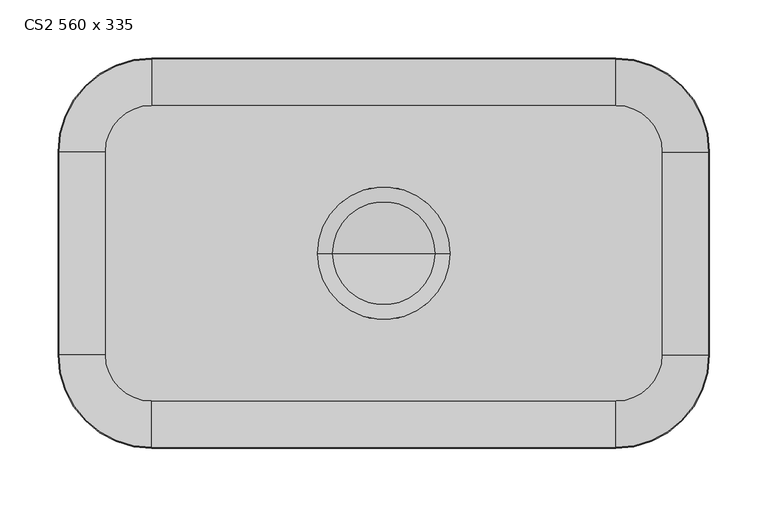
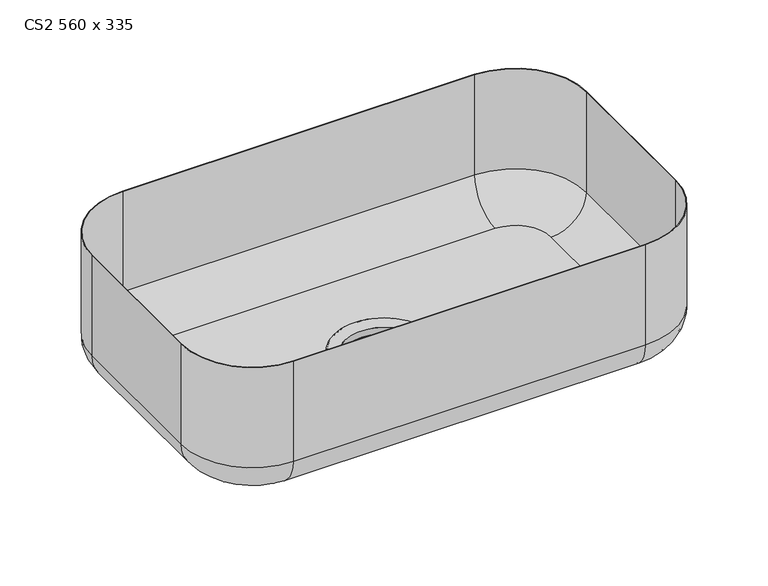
"""IFC4 building model written with IfcOpenShell, lengths in millimetres: flow terminal geometry, Cuba Cozinha de Embutir Simples Retangular : CS2 560 x 335."""

from ifc_helpers import new_model, si_unit, point, frame, origin, place, context, project, spatial, polyline, circle_curve, ellipse_curve, trimmed, source, transform, mapped, element, save
from ifc_brep_helpers import plane_surface, cylinder_surface, revolved_surface, advanced_brep


def cs2_560_x_335_cd160908(model_context):
    return source(origin(), model_context, "Body", "AdvancedBrep", [
        advanced_brep(
        [(-57.15, 0.0, -210.0), (57.15, 0.0, -210.0), (0.0, 0.0, -210.0), (-57.15, 0.0, -190.0), (57.15, 0.0, -190.0), (-44.45, 0.0, -192.4686299), (44.45, 0.0, -192.4686299), (-44.45, 0.0, -200.234315), (44.45, 0.0, -200.234315), (0.0, 0.0, -208.8745197)],
        [
            (0, 1, circle_curve(frame((0.0, 0.0, -210.0), z_axis=(0.0, 0.0, -1.0), x_axis=(1.0, 0.0, 0.0)), 57.15)),
            (1, 2),
            (2, 0),
            (1, 0, circle_curve(frame((0.0, 0.0, -210.0), z_axis=(0.0, 0.0, -1.0), x_axis=(1.0, 0.0, 0.0)), 57.15)),
            (3, 4, circle_curve(frame((0.0, 0.0, -190.0), z_axis=(0.0, 0.0, -1.0), x_axis=(1.0, 0.0, 0.0)), 57.15)),
            (4, 1),
            (0, 3),
            (4, 3, circle_curve(frame((0.0, 0.0, -190.0), z_axis=(0.0, 0.0, -1.0), x_axis=(1.0, 0.0, 0.0)), 57.15)),
            (5, 6, circle_curve(frame((0.0, 0.0, -192.4686299), z_axis=(0.0, 0.0, -1.0), x_axis=(1.0, 0.0, 0.0)), 44.45)),
            (6, 4),
            (3, 5),
            (6, 5, circle_curve(frame((0.0, 0.0, -192.4686299), z_axis=(0.0, 0.0, -1.0), x_axis=(1.0, 0.0, 0.0)), 44.45)),
            (7, 8, circle_curve(frame((0.0, 0.0, -200.234315), z_axis=(0.0, 0.0, -1.0), x_axis=(1.0, 0.0, 0.0)), 44.45)),
            (8, 6),
            (5, 7),
            (8, 7, circle_curve(frame((0.0, 0.0, -200.234315), z_axis=(0.0, 0.0, -1.0), x_axis=(1.0, 0.0, 0.0)), 44.45)),
            (9, 8),
            (7, 9),
        ],
        [
            plane_surface(frame((0.0, 0.0, -210.0), z_axis=(0.0, 0.0, -1.0), x_axis=(1.0, 0.0, 0.0))),
            cylinder_surface(frame((0.0, 0.0, -190.0), z_axis=(0.0, 0.0, 1.0), x_axis=(1.0, 0.0, 0.0)), 57.15),
            revolved_surface(polyline([(57.15, 0.0, -190.0), (44.45, 0.0, -192.4686299)]), (0.0, 0.0, -190.0), (0.0, 0.0, 1.0)),
            revolved_surface(polyline([(44.45, 0.0, -192.4686299), (44.45, 0.0, -200.234315)]), (0.0, 0.0, -190.0), (0.0, 0.0, 1.0)),
            revolved_surface(polyline([(44.45, 0.0, -200.234315), (0.0, 0.0, -208.8745197)]), (0.0, 0.0, -190.0), (0.0, 0.0, 1.0)),
        ],
        [
            (0, [[1, 2, 3]]),
            (0, [[4, -3, -2]]),
            (1, [[5, 6, -1, 7]]),
            (1, [[8, -7, -4, -6]]),
            (2, [[9, 10, -5, 11]]),
            (2, [[12, -11, -8, -10]]),
            (3, [[13, 14, -9, 15]]),
            (3, [[16, -15, -12, -14]]),
            (4, [[17, -13, 18]]),
            (4, [[-18, -16, -17]]),
        ],
    ),
        advanced_brep(
        [(240.0, 87.5, -190.0), (200.0, 127.5, -190.0), (-200.0, 127.5, -190.0), (-240.0, 87.5, -190.0), (-240.0, -87.5, -190.0), (-200.0, -127.5, -190.0), (200.0, -127.5, -190.0), (240.0, -87.5, -190.0), (35.6324422, 44.6816692, -190.0), (51.4903708, 24.7964557, -190.0), (57.15, 0.0, -190.0), (51.4903708, -24.7964557, -190.0), (35.6324422, -44.6816692, -190.0), (12.7170714, -55.7171302, -190.0), (-12.7170714, -55.7171302, -190.0), (-35.6324422, -44.6816692, -190.0), (-51.4903708, -24.7964557, -190.0), (-57.15, 0.0, -190.0), (-51.4903708, 24.7964557, -190.0), (-35.6324422, 44.6816692, -190.0), (-12.7170714, 55.7171302, -190.0), (12.7170714, 55.7171302, -190.0), (200.0, 127.5, -191.0), (240.0, 87.5, -191.0), (240.0, -87.5, -191.0), (200.0, -127.5, -191.0), (-200.0, -127.5, -191.0), (-240.0, -87.5, -191.0), (-240.0, 87.5, -191.0), (-200.0, 127.5, -191.0), (51.4903708, 24.7964557, -191.0), (35.6324422, 44.6816692, -191.0), (12.7170714, 55.7171302, -191.0), (-12.7170714, 55.7171302, -191.0), (-35.6324422, 44.6816692, -191.0), (-51.4903708, 24.7964557, -191.0), (-57.15, 0.0, -191.0), (-51.4903708, -24.7964557, -191.0), (-35.6324422, -44.6816692, -191.0), (-12.7170714, -55.7171302, -191.0), (12.7170714, -55.7171302, -191.0), (35.6324422, -44.6816692, -191.0), (51.4903708, -24.7964557, -191.0), (57.15, 0.0, -191.0), (280.0, 87.5, -30.0), (200.0, 167.5, -30.0), (200.0, 167.5, -150.0), (280.0, 87.5, -150.0), (281.0, 87.5, -150.0), (200.0, 168.5, -150.0), (200.0, 168.5, -30.0), (281.0, 87.5, -30.0), (280.0, -87.5, -150.0), (280.0, -87.5, -30.0), (281.0, -87.5, -30.0), (281.0, -87.5, -150.0), (200.0, -167.5, -150.0), (200.0, -167.5, -30.0), (200.0, -168.5, -30.0), (200.0, -168.5, -150.0), (-200.0, -167.5, -150.0), (-200.0, -167.5, -30.0), (-200.0, -168.5, -30.0), (-200.0, -168.5, -150.0), (-280.0, -87.5, -150.0), (-280.0, -87.5, -30.0), (-281.0, -87.5, -30.0), (-281.0, -87.5, -150.0), (-280.0, 87.5, -150.0), (-280.0, 87.5, -30.0), (-281.0, 87.5, -30.0), (-281.0, 87.5, -150.0), (-200.0, 167.5, -150.0), (-200.0, 167.5, -30.0), (-200.0, 168.5, -30.0), (-200.0, 168.5, -150.0)],
        [
            (0, 1, circle_curve(frame((200.0, 87.5, -190.0), z_axis=(0.0, 0.0, 1.0), x_axis=(0.0, 1.0, 0.0)), 40.0)),
            (1, 2),
            (2, 3, circle_curve(frame((-200.0, 87.5, -190.0), z_axis=(0.0, 0.0, 1.0), x_axis=(-1.0, 0.0, 0.0)), 40.0)),
            (3, 4),
            (4, 5, circle_curve(frame((-200.0, -87.5, -190.0), z_axis=(0.0, 0.0, 1.0), x_axis=(0.0, -1.0, 0.0)), 40.0)),
            (5, 6),
            (6, 7, circle_curve(frame((200.0, -87.5, -190.0), z_axis=(0.0, 0.0, 1.0), x_axis=(1.0, 0.0, 0.0)), 40.0)),
            (7, 0),
            (8, 9),
            (9, 10),
            (10, 11),
            (11, 12),
            (12, 13),
            (13, 14),
            (14, 15),
            (15, 16),
            (16, 17),
            (17, 18),
            (18, 19),
            (19, 20),
            (20, 21),
            (21, 8),
            (22, 23, circle_curve(frame((200.0, 87.5, -191.0), z_axis=(0.0, 0.0, -1.0), x_axis=(0.0, 1.0, 0.0)), 40.0)),
            (23, 24),
            (24, 25, circle_curve(frame((200.0, -87.5, -191.0), z_axis=(0.0, 0.0, -1.0), x_axis=(1.0, 0.0, 0.0)), 40.0)),
            (25, 26),
            (26, 27, circle_curve(frame((-200.0, -87.5, -191.0), z_axis=(0.0, 0.0, -1.0), x_axis=(0.0, -1.0, 0.0)), 40.0)),
            (27, 28),
            (28, 29, circle_curve(frame((-200.0, 87.5, -191.0), z_axis=(0.0, 0.0, -1.0), x_axis=(-1.0, 0.0, 0.0)), 40.0)),
            (29, 22),
            (30, 31),
            (31, 32),
            (32, 33),
            (33, 34),
            (34, 35),
            (35, 36),
            (36, 37),
            (37, 38),
            (38, 39),
            (39, 40),
            (40, 41),
            (41, 42),
            (42, 43),
            (43, 30),
            (44, 45, circle_curve(frame((200.0, 87.5, -30.0), z_axis=(0.0, 0.0, 1.0), x_axis=(0.0, 1.0, 0.0)), 80.0)),
            (45, 46),
            (46, 47, circle_curve(frame((200.0, 87.5, -150.0), z_axis=(0.0, 0.0, -1.0), x_axis=(0.0, 1.0, 0.0)), 80.0)),
            (47, 44),
            (48, 49, circle_curve(frame((200.0, 87.5, -150.0), z_axis=(0.0, 0.0, 1.0), x_axis=(0.0, 1.0, 0.0)), 81.0)),
            (49, 50),
            (50, 51, circle_curve(frame((200.0, 87.5, -30.0), z_axis=(0.0, 0.0, -1.0), x_axis=(0.0, 1.0, 0.0)), 81.0)),
            (51, 48),
            (48, 23, circle_curve(frame((240.0, 87.5, -150.0), z_axis=(0.0, 1.0, 0.0), x_axis=(1.0, 0.0, 0.0)), 41.0)),
            (22, 49, circle_curve(frame((200.0, 127.5, -150.0), z_axis=(1.0, 0.0, 0.0), x_axis=(0.0, 1.0, 0.0)), 41.0)),
            (46, 1, circle_curve(frame((200.0, 127.5, -150.0), z_axis=(-1.0, 0.0, 0.0), x_axis=(0.0, 1.0, 0.0)), 40.0)),
            (0, 47, circle_curve(frame((240.0, 87.5, -150.0), z_axis=(0.0, -1.0, 0.0), x_axis=(1.0, 0.0, 0.0)), 40.0)),
            (47, 52),
            (52, 53),
            (53, 44),
            (51, 54),
            (54, 55),
            (55, 48),
            (55, 24, circle_curve(frame((240.0, -87.5, -150.0), z_axis=(0.0, 1.0, 0.0), x_axis=(1.0, 0.0, 0.0)), 41.0)),
            (7, 52, circle_curve(frame((240.0, -87.5, -150.0), z_axis=(0.0, -1.0, 0.0), x_axis=(1.0, 0.0, 0.0)), 40.0)),
            (52, 56, circle_curve(frame((200.0, -87.5, -150.0), z_axis=(0.0, 0.0, -1.0), x_axis=(1.0, 0.0, 0.0)), 80.0)),
            (56, 57),
            (57, 53, circle_curve(frame((200.0, -87.5, -30.0), z_axis=(0.0, 0.0, 1.0), x_axis=(1.0, 0.0, 0.0)), 80.0)),
            (54, 58, circle_curve(frame((200.0, -87.5, -30.0), z_axis=(0.0, 0.0, -1.0), x_axis=(1.0, 0.0, 0.0)), 81.0)),
            (58, 59),
            (59, 55, circle_curve(frame((200.0, -87.5, -150.0), z_axis=(0.0, 0.0, 1.0), x_axis=(1.0, 0.0, 0.0)), 81.0)),
            (59, 25, circle_curve(frame((200.0, -127.5, -150.0), z_axis=(1.0, 0.0, 0.0), x_axis=(0.0, -1.0, 0.0)), 41.0)),
            (6, 56, circle_curve(frame((200.0, -127.5, -150.0), z_axis=(-1.0, 0.0, 0.0), x_axis=(0.0, -1.0, 0.0)), 40.0)),
            (56, 60),
            (60, 61),
            (61, 57),
            (58, 62),
            (62, 63),
            (63, 59),
            (63, 26, circle_curve(frame((-200.0, -127.5, -150.0), z_axis=(1.0, 0.0, 0.0), x_axis=(0.0, -1.0, 0.0)), 41.0)),
            (5, 60, circle_curve(frame((-200.0, -127.5, -150.0), z_axis=(-1.0, 0.0, 0.0), x_axis=(0.0, -1.0, 0.0)), 40.0)),
            (60, 64, circle_curve(frame((-200.0, -87.5, -150.0), z_axis=(0.0, 0.0, -1.0), x_axis=(0.0, -1.0, 0.0)), 80.0)),
            (64, 65),
            (65, 61, circle_curve(frame((-200.0, -87.5, -30.0), z_axis=(0.0, 0.0, 1.0), x_axis=(0.0, -1.0, 0.0)), 80.0)),
            (62, 66, circle_curve(frame((-200.0, -87.5, -30.0), z_axis=(0.0, 0.0, -1.0), x_axis=(0.0, -1.0, 0.0)), 81.0)),
            (66, 67),
            (67, 63, circle_curve(frame((-200.0, -87.5, -150.0), z_axis=(0.0, 0.0, 1.0), x_axis=(0.0, -1.0, 0.0)), 81.0)),
            (67, 27, circle_curve(frame((-240.0, -87.5, -150.0), z_axis=(0.0, -1.0, 0.0), x_axis=(-1.0, 0.0, 0.0)), 41.0)),
            (4, 64, circle_curve(frame((-240.0, -87.5, -150.0), z_axis=(0.0, 1.0, 0.0), x_axis=(-1.0, 0.0, 0.0)), 40.0)),
            (64, 68),
            (68, 69),
            (69, 65),
            (66, 70),
            (70, 71),
            (71, 67),
            (71, 28, circle_curve(frame((-240.0, 87.5, -150.0), z_axis=(0.0, -1.0, 0.0), x_axis=(-1.0, 0.0, 0.0)), 41.0)),
            (3, 68, circle_curve(frame((-240.0, 87.5, -150.0), z_axis=(0.0, 1.0, 0.0), x_axis=(-1.0, 0.0, 0.0)), 40.0)),
            (68, 72, circle_curve(frame((-200.0, 87.5, -150.0), z_axis=(0.0, 0.0, -1.0), x_axis=(-1.0, 0.0, 0.0)), 80.0)),
            (72, 73),
            (73, 69, circle_curve(frame((-200.0, 87.5, -30.0), z_axis=(0.0, 0.0, 1.0), x_axis=(-1.0, 0.0, 0.0)), 80.0)),
            (70, 74, circle_curve(frame((-200.0, 87.5, -30.0), z_axis=(0.0, 0.0, -1.0), x_axis=(-1.0, 0.0, 0.0)), 81.0)),
            (74, 75),
            (75, 71, circle_curve(frame((-200.0, 87.5, -150.0), z_axis=(0.0, 0.0, 1.0), x_axis=(-1.0, 0.0, 0.0)), 81.0)),
            (75, 29, circle_curve(frame((-200.0, 127.5, -150.0), z_axis=(-1.0, 0.0, 0.0), x_axis=(0.0, 1.0, 0.0)), 41.0)),
            (2, 72, circle_curve(frame((-200.0, 127.5, -150.0), z_axis=(1.0, 0.0, 0.0), x_axis=(0.0, 1.0, 0.0)), 40.0)),
            (45, 73),
            (72, 46),
            (50, 74),
            (49, 75),
            (30, 9),
            (8, 31),
            (21, 32),
            (20, 33),
            (19, 34),
            (18, 35),
            (17, 36),
            (16, 37),
            (15, 38),
            (14, 39),
            (13, 40),
            (12, 41),
            (11, 42),
            (10, 43),
        ],
        [
            plane_surface(frame((-200.0, 127.5, -190.0), z_axis=(0.0, 0.0, 1.0), x_axis=(-1.0, 0.0, 0.0))),
            plane_surface(frame((-200.0, 127.5, -191.0), z_axis=(0.0, 0.0, -1.0), x_axis=(1.0, 0.0, 0.0))),
            revolved_surface(polyline([(200.0, 167.5, -150.0), (200.0, 167.5, -30.0)]), (200.0, 87.5, 0.0), (0.0, 0.0, -1.0)),
            cylinder_surface(frame((200.0, 87.5, 0.0), z_axis=(0.0, 0.0, -1.0), x_axis=(0.0, 1.0, 0.0)), 81.0),
            revolved_surface(trimmed(ellipse_curve(frame((200.0, 127.5, -150.0), z_axis=(-1.0, 0.0, 0.0), x_axis=(0.0, 1.0, 0.0)), 41.0, 41.0), [point((200.0, 168.5, -150.0))], [point((200.0, 127.5, -191.0))], True, "CARTESIAN"), (200.0, 87.5, 0.0), (0.0, 0.0, -1.0)),
            revolved_surface(trimmed(ellipse_curve(frame((200.0, 127.5, -150.0), z_axis=(1.0, 0.0, 0.0), x_axis=(0.0, 1.0, 0.0)), 40.0, 40.0), [point((200.0, 127.5, -190.0))], [point((200.0, 167.5, -150.0))], True, "CARTESIAN"), (200.0, 87.5, 0.0), (0.0, 0.0, -1.0)),
            plane_surface(frame((280.0, 87.5, -150.0), z_axis=(-1.0, 0.0, 0.0), x_axis=(0.0, -1.0, 0.0))),
            plane_surface(frame((281.0, 87.5, -30.0), z_axis=(1.0, 0.0, 0.0), x_axis=(0.0, -1.0, 0.0))),
            cylinder_surface(frame((240.0, 87.5, -150.0), z_axis=(0.0, 1.0, 0.0), x_axis=(1.0, 0.0, 0.0)), 41.0),
            revolved_surface(polyline([(280.0, -87.5, -150.0), (280.0, 87.5, -150.0)]), (240.0, 87.5, -150.0), (0.0, -1.0, 0.0)),
            revolved_surface(polyline([(280.0, -87.5, -150.0), (280.0, -87.5, -30.0)]), (200.0, -87.5, 0.0), (0.0, 0.0, -1.0)),
            cylinder_surface(frame((200.0, -87.5, 0.0), z_axis=(0.0, 0.0, -1.0), x_axis=(1.0, 0.0, 0.0)), 81.0),
            revolved_surface(trimmed(ellipse_curve(frame((240.0, -87.5, -150.0), z_axis=(0.0, 1.0, 0.0), x_axis=(1.0, 0.0, 0.0)), 41.0, 41.0), [point((281.0, -87.5, -150.0))], [point((240.0, -87.5, -191.0))], True, "CARTESIAN"), (200.0, -87.5, 0.0), (0.0, 0.0, -1.0)),
            revolved_surface(trimmed(ellipse_curve(frame((240.0, -87.5, -150.0), z_axis=(0.0, -1.0, 0.0), x_axis=(1.0, 0.0, 0.0)), 40.0, 40.0), [point((240.0, -87.5, -190.0))], [point((280.0, -87.5, -150.0))], True, "CARTESIAN"), (200.0, -87.5, 0.0), (0.0, 0.0, -1.0)),
            plane_surface(frame((200.0, -167.5, -150.0), z_axis=(0.0, 1.0, 0.0), x_axis=(-1.0, 0.0, 0.0))),
            plane_surface(frame((200.0, -168.5, -30.0), z_axis=(0.0, -1.0, 0.0), x_axis=(-1.0, 0.0, 0.0))),
            cylinder_surface(frame((200.0, -127.5, -150.0), z_axis=(1.0, 0.0, 0.0), x_axis=(0.0, -1.0, 0.0)), 41.0),
            revolved_surface(polyline([(-200.0, -167.5, -150.0), (200.0, -167.5, -150.0)]), (200.0, -127.5, -150.0), (-1.0, 0.0, 0.0)),
            revolved_surface(polyline([(-200.0, -167.5, -150.0), (-200.0, -167.5, -30.0)]), (-200.0, -87.5, 0.0), (0.0, 0.0, -1.0)),
            cylinder_surface(frame((-200.0, -87.5, 0.0), z_axis=(0.0, 0.0, -1.0), x_axis=(0.0, -1.0, 0.0)), 81.0),
            revolved_surface(trimmed(ellipse_curve(frame((-200.0, -127.5, -150.0), z_axis=(1.0, 0.0, 0.0), x_axis=(0.0, -1.0, 0.0)), 41.0, 41.0), [point((-200.0, -168.5, -150.0))], [point((-200.0, -127.5, -191.0))], True, "CARTESIAN"), (-200.0, -87.5, 0.0), (0.0, 0.0, -1.0)),
            revolved_surface(trimmed(ellipse_curve(frame((-200.0, -127.5, -150.0), z_axis=(-1.0, 0.0, 0.0), x_axis=(0.0, -1.0, 0.0)), 40.0, 40.0), [point((-200.0, -127.5, -190.0))], [point((-200.0, -167.5, -150.0))], True, "CARTESIAN"), (-200.0, -87.5, 0.0), (0.0, 0.0, -1.0)),
            plane_surface(frame((-280.0, -87.5, -150.0), z_axis=(1.0, 0.0, 0.0), x_axis=(0.0, 1.0, 0.0))),
            plane_surface(frame((-281.0, -87.5, -30.0), z_axis=(-1.0, 0.0, 0.0), x_axis=(0.0, 1.0, 0.0))),
            cylinder_surface(frame((-240.0, -87.5, -150.0), z_axis=(0.0, -1.0, 0.0), x_axis=(-1.0, 0.0, 0.0)), 41.0),
            revolved_surface(polyline([(-280.0, 87.5, -150.0), (-280.0, -87.5, -150.0)]), (-240.0, -87.5, -150.0), (0.0, 1.0, 0.0)),
            revolved_surface(polyline([(-280.0, 87.5, -150.0), (-280.0, 87.5, -30.0)]), (-200.0, 87.5, 0.0), (0.0, 0.0, -1.0)),
            cylinder_surface(frame((-200.0, 87.5, 0.0), z_axis=(0.0, 0.0, -1.0), x_axis=(-1.0, 0.0, 0.0)), 81.0),
            revolved_surface(trimmed(ellipse_curve(frame((-240.0, 87.5, -150.0), z_axis=(0.0, -1.0, 0.0), x_axis=(-1.0, 0.0, 0.0)), 41.0, 41.0), [point((-281.0, 87.5, -150.0))], [point((-240.0, 87.5, -191.0))], True, "CARTESIAN"), (-200.0, 87.5, 0.0), (0.0, 0.0, -1.0)),
            revolved_surface(trimmed(ellipse_curve(frame((-240.0, 87.5, -150.0), z_axis=(0.0, 1.0, 0.0), x_axis=(-1.0, 0.0, 0.0)), 40.0, 40.0), [point((-240.0, 87.5, -190.0))], [point((-280.0, 87.5, -150.0))], True, "CARTESIAN"), (-200.0, 87.5, 0.0), (0.0, 0.0, -1.0)),
            plane_surface(frame((-200.0, 167.5, -150.0), z_axis=(0.0, -1.0, 0.0), x_axis=(1.0, 0.0, 0.0))),
            plane_surface(frame((-200.0, 167.5, -30.0), z_axis=(0.0, 0.0, 1.0), x_axis=(1.0, 0.0, 0.0))),
            plane_surface(frame((-200.0, 168.5, -30.0), z_axis=(0.0, 1.0, 0.0), x_axis=(1.0, 0.0, 0.0))),
            cylinder_surface(frame((-200.0, 127.5, -150.0), z_axis=(-1.0, 0.0, 0.0), x_axis=(0.0, 1.0, 0.0)), 41.0),
            revolved_surface(polyline([(200.0, 167.5, -150.0), (-200.0, 167.5, -150.0)]), (-200.0, 127.5, -150.0), (1.0, 0.0, 0.0)),
            plane_surface(frame((51.4903708, 24.7964557, 0.0), z_axis=(-0.7818314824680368, -0.6234898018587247, 0.0), x_axis=(0.0, 0.0, -1.0))),
            plane_surface(frame((35.6324422, 44.6816692, 0.0), z_axis=(-0.4338837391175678, -0.9009688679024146, 0.0), x_axis=(0.0, 0.0, -1.0))),
            plane_surface(frame((12.7170714, 55.7171302, 0.0), z_axis=(0.0, -1.0, 0.0), x_axis=(0.0, 0.0, -1.0))),
            plane_surface(frame((-12.7170714, 55.7171302, 0.0), z_axis=(0.43388373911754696, -0.9009688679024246, 0.0), x_axis=(0.0, 0.0, -1.0))),
            plane_surface(frame((-35.6324422, 44.6816692, 0.0), z_axis=(0.7818314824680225, -0.6234898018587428, 0.0), x_axis=(0.0, 0.0, -1.0))),
            plane_surface(frame((-51.4903708, 24.7964557, 0.0), z_axis=(0.9749279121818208, -0.2225209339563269, 0.0), x_axis=(0.0, 0.0, -1.0))),
            plane_surface(frame((-57.15, 0.0, 0.0), z_axis=(0.9749279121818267, 0.2225209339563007, 0.0), x_axis=(0.0, 0.0, -1.0))),
            plane_surface(frame((-51.4903708, -24.7964557, 0.0), z_axis=(0.7818314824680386, 0.6234898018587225, 0.0), x_axis=(0.0, 0.0, -1.0))),
            plane_surface(frame((-35.6324422, -44.6816692, 0.0), z_axis=(0.4338837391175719, 0.9009688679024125, 0.0), x_axis=(0.0, 0.0, -1.0))),
            plane_surface(frame((-12.7170714, -55.7171302, 0.0), z_axis=(0.0, 1.0, 0.0), x_axis=(0.0, 0.0, -1.0))),
            plane_surface(frame((12.7170714, -55.7171302, 0.0), z_axis=(-0.4338837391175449, 0.9009688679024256, 0.0), x_axis=(0.0, 0.0, -1.0))),
            plane_surface(frame((35.6324422, -44.6816692, 0.0), z_axis=(-0.7818314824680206, 0.6234898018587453, 0.0), x_axis=(0.0, 0.0, -1.0))),
            plane_surface(frame((51.4903708, -24.7964557, 0.0), z_axis=(-0.9749279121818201, 0.22252093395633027, 0.0), x_axis=(0.0, 0.0, -1.0))),
            plane_surface(frame((57.15, 0.0, 0.0), z_axis=(-0.974927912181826, -0.2225209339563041, 0.0), x_axis=(0.0, 0.0, -1.0))),
        ],
        [
            (0, [[1, 2, 3, 4, 5, 6, 7, 8], [9, 10, 11, 12, 13, 14, 15, 16, 17, 18, 19, 20, 21, 22]]),
            (1, [[23, 24, 25, 26, 27, 28, 29, 30], [31, 32, 33, 34, 35, 36, 37, 38, 39, 40, 41, 42, 43, 44]]),
            (2, [[45, 46, 47, 48]]),
            (3, [[49, 50, 51, 52]]),
            (4, [[-49, 53, -23, 54]]),
            (5, [[-47, 55, -1, 56]]),
            (6, [[-48, 57, 58, 59]]),
            (7, [[-52, 60, 61, 62]]),
            (8, [[-53, -62, 63, -24]]),
            (9, [[-56, -8, 64, -57]]),
            (10, [[-58, 65, 66, 67]]),
            (11, [[-61, 68, 69, 70]]),
            (12, [[-63, -70, 71, -25]]),
            (13, [[-64, -7, 72, -65]]),
            (14, [[-66, 73, 74, 75]]),
            (15, [[-69, 76, 77, 78]]),
            (16, [[-71, -78, 79, -26]]),
            (17, [[-72, -6, 80, -73]]),
            (18, [[-74, 81, 82, 83]]),
            (19, [[-77, 84, 85, 86]]),
            (20, [[-79, -86, 87, -27]]),
            (21, [[-80, -5, 88, -81]]),
            (22, [[-82, 89, 90, 91]]),
            (23, [[-85, 92, 93, 94]]),
            (24, [[-87, -94, 95, -28]]),
            (25, [[-88, -4, 96, -89]]),
            (26, [[-90, 97, 98, 99]]),
            (27, [[-93, 100, 101, 102]]),
            (28, [[-95, -102, 103, -29]]),
            (29, [[-96, -3, 104, -97]]),
            (30, [[-46, 105, -98, 106]]),
            (31, [[-51, 107, -100, -92, -84, -76, -68, -60], [-45, -59, -67, -75, -83, -91, -99, -105]]),
            (32, [[-50, 108, -101, -107]]),
            (33, [[-54, -30, -103, -108]]),
            (34, [[-55, -106, -104, -2]]),
            (35, [[109, -9, 110, -31]]),
            (36, [[-110, -22, 111, -32]]),
            (37, [[-111, -21, 112, -33]]),
            (38, [[-112, -20, 113, -34]]),
            (39, [[-113, -19, 114, -35]]),
            (40, [[-114, -18, 115, -36]]),
            (41, [[-115, -17, 116, -37]]),
            (42, [[-116, -16, 117, -38]]),
            (43, [[-117, -15, 118, -39]]),
            (44, [[-118, -14, 119, -40]]),
            (45, [[-119, -13, 120, -41]]),
            (46, [[-120, -12, 121, -42]]),
            (47, [[-121, -11, 122, -43]]),
            (48, [[-109, -44, -122, -10]]),
        ],
    ),
    ])


if __name__ == "__main__":
    model = new_model("IFC4")
    model_context = context("Model", 3, world=origin())
    ifc_project = project(units=[si_unit("LENGTHUNIT", "METRE", prefix="MILLI")], contexts=[model_context])
    site = spatial("IfcSite", under=ifc_project)
    building = spatial("IfcBuilding", under=site)
    placement = place(None, origin())
    cs2_560_x_335_shape = cs2_560_x_335_cd160908(model_context)
    element("IfcFlowTerminal", 1, ObjectType="Cuba Cozinha de Embutir Simples Retangular : CS2 560 x 335", at=placement, inside=building, context=model_context, shape_type="MappedRepresentation", body=[
        mapped(cs2_560_x_335_shape, transform((0.0, 0.0, 0.0), x_axis=(1.0, 0.0, 0.0), y_axis=(0.0, 1.0, 0.0), z_axis=(0.0, 0.0, 1.0))),
    ])
    save(model, "model.ifc")
